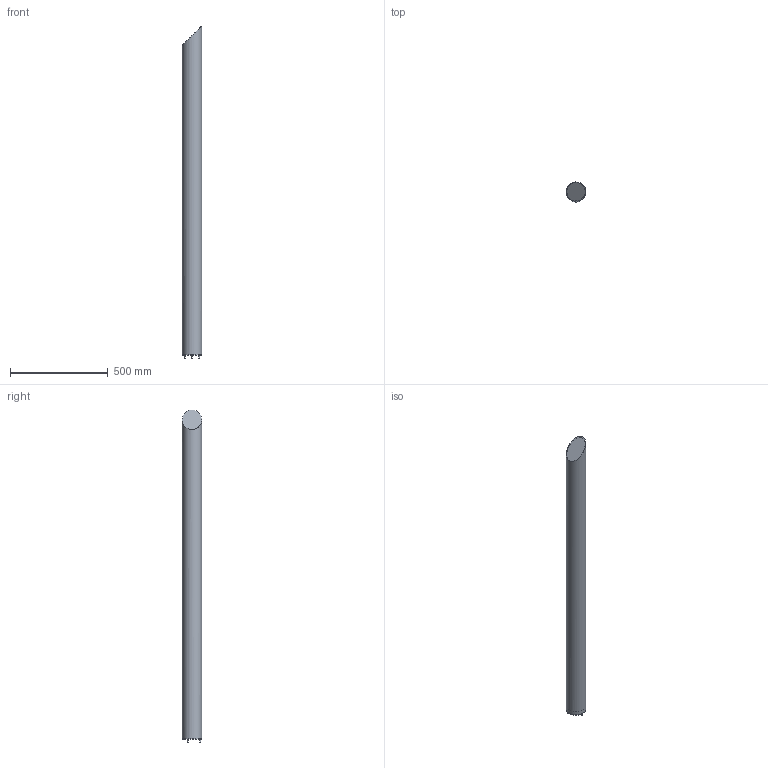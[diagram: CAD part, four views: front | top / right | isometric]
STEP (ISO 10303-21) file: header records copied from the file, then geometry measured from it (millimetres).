
FILE_DESCRIPTION(/* description */ (''),/* implementation_level */ '2;1');
FILE_NAME(/* name */ 'C:/Users/LukasGröber/GMS Cloud/Groeber Mannheim Lichtwerke - Dokumente/Marketing/Produkte/3D Daten/Light Star/Light Star 170.step',/* time_stamp */ '2022-07-06T12:51:30+02:00',/* author */ (''),/* organization */ (''),/* preprocessor_version */ 'ST-DEVELOPER v18.1',/* originating_system */ 'Autodesk Translation Framework v10.10.0.1391',/* authorisation */ '');
FILE_SCHEMA (('AUTOMOTIVE_DESIGN { 1 0 10303 214 3 1 1 }'));
Length unit declared in the file: millimetre
Products named in the file (3): Light Star 170 (Modell); Fuß Light Star/Stick Modell; Rohr Light Star 170
Assembly tree (2 placements, depth 2):
  Light Star 170 (Modell)
    Fuß Light Star/Stick Modell
    Rohr Light Star 170
Bounding box: 100 x 100 x 1702 mm (x, y, z)
Volume: 1699851.1 mm3; surface area: 1040587.1 mm2
Topology: 2 solids, 2 shells, 18 faces, 26 edges, 17 vertices
Faces by surface type: plane 10, cylinder 7, cone 1
Full cylindrical faces by diameter (mm): 5 x3, 94 x2, 100 x2
Entity records: 498 total; most frequent: DIRECTION 89, CARTESIAN_POINT 66, ORIENTED_EDGE 52, AXIS2_PLACEMENT_3D 40, EDGE_CURVE 26, EDGE_LOOP 23, FACE_OUTER_BOUND 18, ADVANCED_FACE 18
